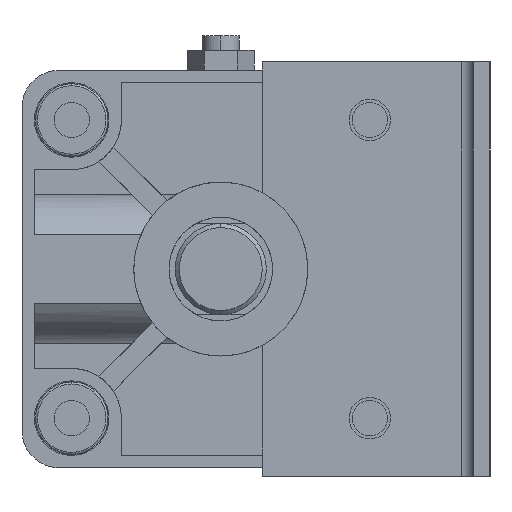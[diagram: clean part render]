
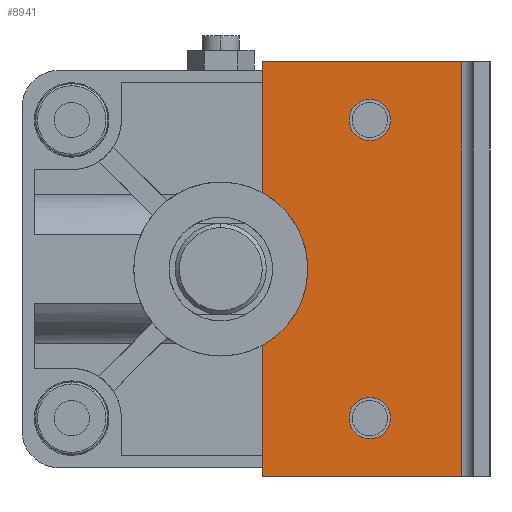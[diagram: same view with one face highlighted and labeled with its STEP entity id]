
A CAD part, left-side view. The second image highlights one B-rep face of the part: STEP entity #8941.
In plain terms, the highlighted planar face has unit normal (-1, 0, 0) as drawn and (0, 0, 1) by its records, which use the part's own axes.
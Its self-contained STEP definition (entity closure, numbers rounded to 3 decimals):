
#46 = VERTEX_POINT ( 'NONE', #7698 ) ;
#58 = VERTEX_POINT ( 'NONE', #3621 ) ;
#152 = EDGE_LOOP ( 'NONE', ( #9047, #6964, #542, #5815, #695, #2825 ) ) ;
#160 = AXIS2_PLACEMENT_3D ( 'NONE', #2904, #9530, #4488 ) ;
#293 = DIRECTION ( 'NONE',  ( 1., 0., 0. ) ) ;
#307 = DIRECTION ( 'NONE',  ( 0., 0., 1. ) ) ;
#542 = ORIENTED_EDGE ( 'NONE', *, *, #1561, .F. ) ;
#576 = DIRECTION ( 'NONE',  ( 0., 0., -1. ) ) ;
#598 = CARTESIAN_POINT ( 'NONE',  ( -50., -10., 0. ) ) ;
#695 = ORIENTED_EDGE ( 'NONE', *, *, #4506, .F. ) ;
#766 = DIRECTION ( 'NONE',  ( 1., 0., 0. ) ) ;
#873 = DIRECTION ( 'NONE',  ( 0., 0., 1. ) ) ;
#884 = VECTOR ( 'NONE', #5257, 1000. ) ;
#1009 = VECTOR ( 'NONE', #8717, 1000. ) ;
#1022 = VECTOR ( 'NONE', #5095, 1000. ) ;
#1101 = EDGE_CURVE ( 'NONE', #4949, #2735, #8047, .T. ) ;
#1311 = VERTEX_POINT ( 'NONE', #3342 ) ;
#1320 = EDGE_CURVE ( 'NONE', #46, #1311, #4938, .T. ) ;
#1400 = EDGE_CURVE ( 'NONE', #4923, #7884, #6205, .T. ) ;
#1470 = CARTESIAN_POINT ( 'NONE',  ( 0., -10., 0. ) ) ;
#1561 = EDGE_CURVE ( 'NONE', #2735, #7884, #3690, .T. ) ;
#1982 = VECTOR ( 'NONE', #3842, 1000. ) ;
#2098 = AXIS2_PLACEMENT_3D ( 'NONE', #5970, #4236, #293 ) ;
#2198 = CIRCLE ( 'NONE', #160, 5. ) ;
#2579 = CARTESIAN_POINT ( 'NONE',  ( 0., -10., 0. ) ) ;
#2735 = VERTEX_POINT ( 'NONE', #7484 ) ;
#2825 = ORIENTED_EDGE ( 'NONE', *, *, #1320, .T. ) ;
#2859 = ORIENTED_EDGE ( 'NONE', *, *, #2958, .F. ) ;
#2904 = CARTESIAN_POINT ( 'NONE',  ( 36., -36., 0. ) ) ;
#2958 = EDGE_CURVE ( 'NONE', #9332, #4013, #9587, .T. ) ;
#3093 = CARTESIAN_POINT ( 'NONE',  ( 36., -36., 0. ) ) ;
#3342 = CARTESIAN_POINT ( 'NONE',  ( 18.466, -10., 0. ) ) ;
#3403 = AXIS2_PLACEMENT_3D ( 'NONE', #5693, #9017, #6027 ) ;
#3621 = CARTESIAN_POINT ( 'NONE',  ( -31., -36., 0. ) ) ;
#3690 = LINE ( 'NONE', #9219, #1009 ) ;
#3842 = DIRECTION ( 'NONE',  ( -1., 0., 0. ) ) ;
#3846 = ORIENTED_EDGE ( 'NONE', *, *, #6285, .F. ) ;
#3960 = VECTOR ( 'NONE', #8350, 1000. ) ;
#4013 = VERTEX_POINT ( 'NONE', #8561 ) ;
#4203 = DIRECTION ( 'NONE',  ( 1., 0., 0. ) ) ;
#4209 = AXIS2_PLACEMENT_3D ( 'NONE', #4568, #307, #766 ) ;
#4236 = DIRECTION ( 'NONE',  ( 0., 0., 1. ) ) ;
#4240 = ORIENTED_EDGE ( 'NONE', *, *, #6035, .F. ) ;
#4455 = PLANE ( 'NONE',  #3403 ) ;
#4488 = DIRECTION ( 'NONE',  ( 1., 0., 0. ) ) ;
#4506 = EDGE_CURVE ( 'NONE', #46, #4949, #7870, .T. ) ;
#4519 = CARTESIAN_POINT ( 'NONE',  ( 0., 0., 0. ) ) ;
#4567 = ORIENTED_EDGE ( 'NONE', *, *, #9370, .F. ) ;
#4568 = CARTESIAN_POINT ( 'NONE',  ( -36., -36., 0. ) ) ;
#4620 = FACE_OUTER_BOUND ( 'NONE', #152, .T. ) ;
#4900 = EDGE_CURVE ( 'NONE', #1311, #4923, #9492, .T. ) ;
#4923 = VERTEX_POINT ( 'NONE', #6093 ) ;
#4938 = LINE ( 'NONE', #1470, #884 ) ;
#4949 = VERTEX_POINT ( 'NONE', #6099 ) ;
#5095 = DIRECTION ( 'NONE',  ( -1., 0., 0. ) ) ;
#5241 = FACE_BOUND ( 'NONE', #6030, .T. ) ;
#5257 = DIRECTION ( 'NONE',  ( -1., 0., 0. ) ) ;
#5693 = CARTESIAN_POINT ( 'NONE',  ( -50., -58., 0. ) ) ;
#5815 = ORIENTED_EDGE ( 'NONE', *, *, #1101, .F. ) ;
#5970 = CARTESIAN_POINT ( 'NONE',  ( -36., -36., 0. ) ) ;
#6027 = DIRECTION ( 'NONE',  ( 1., 0., 0. ) ) ;
#6030 = EDGE_LOOP ( 'NONE', ( #4567, #2859 ) ) ;
#6035 = EDGE_CURVE ( 'NONE', #8541, #58, #8467, .T. ) ;
#6055 = CARTESIAN_POINT ( 'NONE',  ( 31., -36., 0. ) ) ;
#6093 = CARTESIAN_POINT ( 'NONE',  ( -18.466, -10., 0. ) ) ;
#6099 = CARTESIAN_POINT ( 'NONE',  ( 50., -58., 0. ) ) ;
#6205 = LINE ( 'NONE', #2579, #1982 ) ;
#6285 = EDGE_CURVE ( 'NONE', #58, #8541, #6453, .T. ) ;
#6453 = CIRCLE ( 'NONE', #4209, 5. ) ;
#6493 = FACE_BOUND ( 'NONE', #8684, .T. ) ;
#6962 = CARTESIAN_POINT ( 'NONE',  ( 50., -37.5, 0. ) ) ;
#6964 = ORIENTED_EDGE ( 'NONE', *, *, #1400, .T. ) ;
#7064 = CARTESIAN_POINT ( 'NONE',  ( -41., -36., 0. ) ) ;
#7484 = CARTESIAN_POINT ( 'NONE',  ( -50., -58., 0. ) ) ;
#7698 = CARTESIAN_POINT ( 'NONE',  ( 50., -10., 0. ) ) ;
#7808 = AXIS2_PLACEMENT_3D ( 'NONE', #3093, #873, #9085 ) ;
#7870 = LINE ( 'NONE', #6962, #3960 ) ;
#7884 = VERTEX_POINT ( 'NONE', #598 ) ;
#8047 = LINE ( 'NONE', #9335, #1022 ) ;
#8350 = DIRECTION ( 'NONE',  ( 0., -1., 0. ) ) ;
#8467 = CIRCLE ( 'NONE', #2098, 5. ) ;
#8541 = VERTEX_POINT ( 'NONE', #7064 ) ;
#8561 = CARTESIAN_POINT ( 'NONE',  ( 41., -36., 0. ) ) ;
#8684 = EDGE_LOOP ( 'NONE', ( #3846, #4240 ) ) ;
#8717 = DIRECTION ( 'NONE',  ( 0., 1., 0. ) ) ;
#8941 = ADVANCED_FACE ( 'NONE', ( #5241, #6493, #4620 ), #4455, .T. ) ;
#9017 = DIRECTION ( 'NONE',  ( 0., 0., 1. ) ) ;
#9047 = ORIENTED_EDGE ( 'NONE', *, *, #4900, .T. ) ;
#9064 = AXIS2_PLACEMENT_3D ( 'NONE', #4519, #576, #4203 ) ;
#9085 = DIRECTION ( 'NONE',  ( 1., 0., 0. ) ) ;
#9219 = CARTESIAN_POINT ( 'NONE',  ( -50., -37.5, 0. ) ) ;
#9332 = VERTEX_POINT ( 'NONE', #6055 ) ;
#9335 = CARTESIAN_POINT ( 'NONE',  ( 0., -58., 0. ) ) ;
#9370 = EDGE_CURVE ( 'NONE', #4013, #9332, #2198, .T. ) ;
#9492 = CIRCLE ( 'NONE', #9064, 21. ) ;
#9530 = DIRECTION ( 'NONE',  ( 0., 0., 1. ) ) ;
#9587 = CIRCLE ( 'NONE', #7808, 5. ) ;
